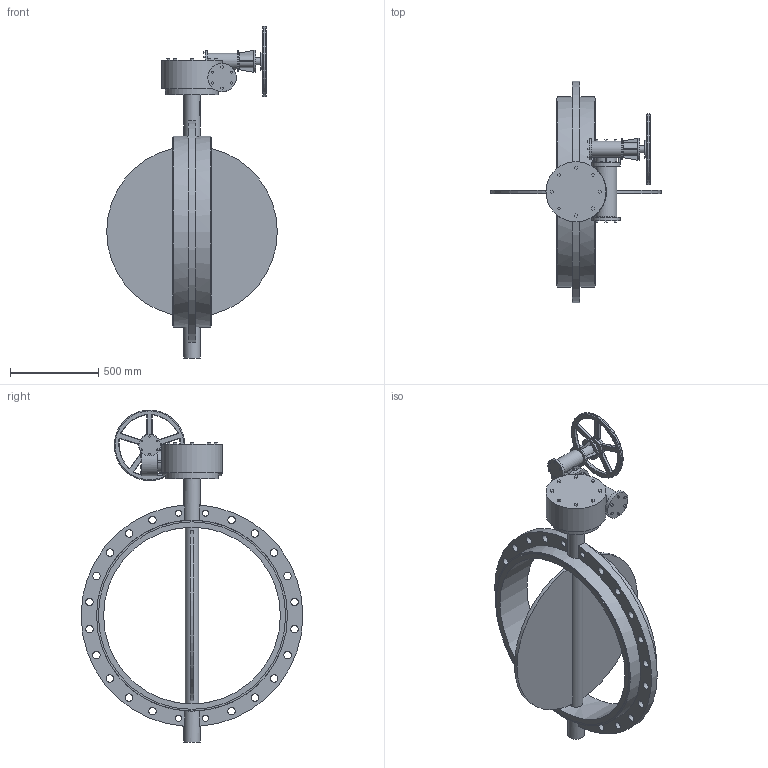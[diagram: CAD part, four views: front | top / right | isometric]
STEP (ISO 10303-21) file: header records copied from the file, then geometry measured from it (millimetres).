
FILE_DESCRIPTION(('STEP AP203'), '1');
FILE_NAME('青蜮铕 017W.YS_DN1000_PN16_疱潴牝铕', '', ('UNSPECIFIED'), ('UNSPECIFIED'), 'ASCON STEP Converter 1.6', 'ASCON Math Kernel', '');
FILE_SCHEMA(('CONFIG_CONTROL_DESIGN'));
Length unit declared in the file: millimetre
Bounding box: 965 x 1255 x 1878 mm (x, y, z)
Volume: 86081967.6 mm3; surface area: 4958372.8 mm2
Topology: 1 solids, 1 shells, 600 faces, 1525 edges, 974 vertices
Faces by surface type: plane 372, cylinder 127, torus 78, cone 16, bspline 7
Full cylindrical faces by diameter (mm): 13.835 x8, 18 x8, 34.67 x4, 40 x1, 42 x20, 75 x1, 90 x1, 95 x2, 100 x1, 120 x2, 121 x2, 125 x1, 161 x3, 300 x1, 340 x1, 400 x1, 1000 x1, 1060 x2, 1080 x2
Entity records: 25214 total; most frequent: CARTESIAN_POINT 5903, DIRECTION 3004, ORIENTED_EDGE 2862, EDGE_CURVE 1431, AXIS2_PLACEMENT_3D 1032, VERTEX_POINT 966, LINE 940, VECTOR 940
